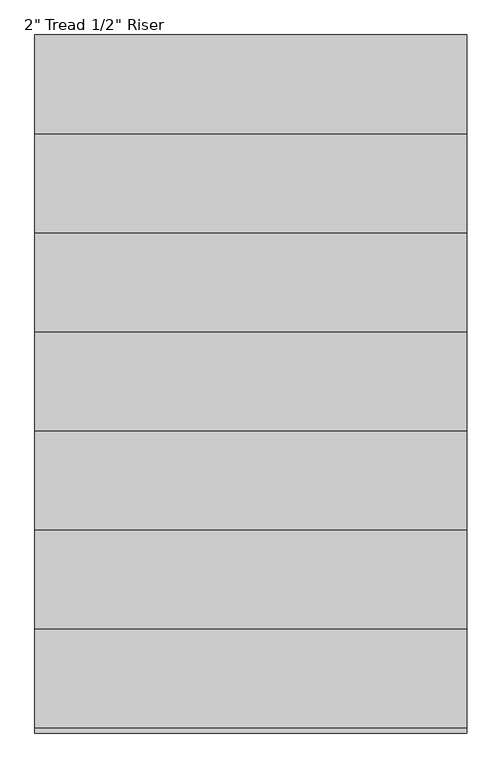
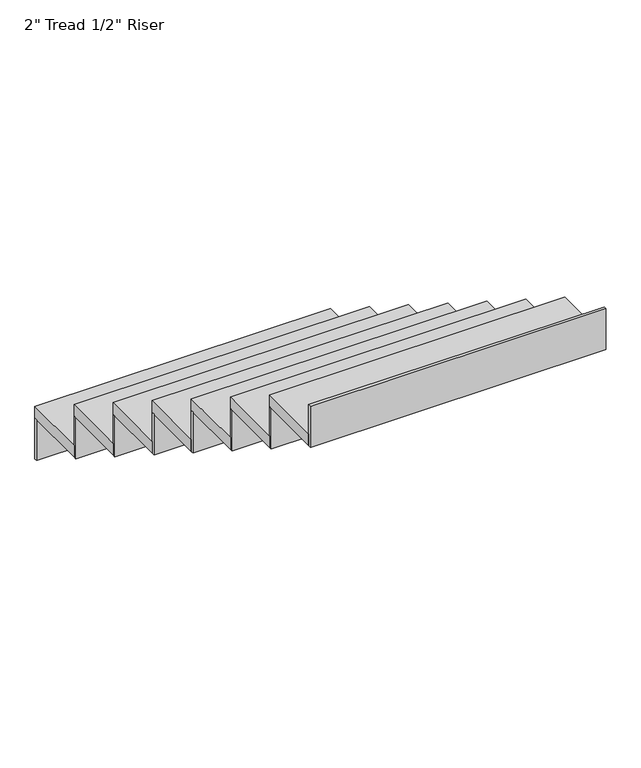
"""IFC4 building model written with IfcOpenShell, lengths in millimetres: stair flight geometry."""

from ifc_helpers import new_model, si_unit, frame, origin, place, context, project, spatial, polyline, outline, extrude, source, transform, mapped, element, save


def stair_flight_ad402a87(model_context):
    return source(origin(), model_context, "Body", "SweptSolid", [
        extrude(outline(polyline([(26064.2237309, 9925.1006), (26064.2237309, 9937.8006), (27283.4237309, 9937.8006), (27283.4237309, 9925.1006), (26064.2237309, 9925.1006)])), frame((0.0, 0.0, 1371.6), z_axis=(0.0, 0.0, 1.0), x_axis=(1.0, 0.0, 0.0)), (0.0, 0.0, 1.0), 177.8),
        extrude(outline(polyline([(27283.4237309, 9658.4006), (26064.2237309, 9658.4006), (26064.2237309, 9937.8006), (27283.4237309, 9937.8006), (27283.4237309, 9658.4006)])), frame((0.0, 0.0, 1549.4), z_axis=(0.0, 0.0, 1.0), x_axis=(1.0, 0.0, 0.0)), (0.0, 0.0, 1.0), 50.8),
        extrude(outline(polyline([(26064.2237309, 9645.7006), (26064.2237309, 9658.4006), (27283.4237309, 9658.4006), (27283.4237309, 9645.7006), (26064.2237309, 9645.7006)])), frame((0.0, 0.0, 1549.4), z_axis=(0.0, 0.0, 1.0), x_axis=(1.0, 0.0, 0.0)), (0.0, 0.0, 1.0), 177.8),
        extrude(outline(polyline([(27283.4237309, 9379.0006), (26064.2237309, 9379.0006), (26064.2237309, 9658.4006), (27283.4237309, 9658.4006), (27283.4237309, 9379.0006)])), frame((0.0, 0.0, 1727.2), z_axis=(0.0, 0.0, 1.0), x_axis=(1.0, 0.0, 0.0)), (0.0, 0.0, 1.0), 50.8),
        extrude(outline(polyline([(26064.2237309, 9366.3006), (26064.2237309, 9379.0006), (27283.4237309, 9379.0006), (27283.4237309, 9366.3006), (26064.2237309, 9366.3006)])), frame((0.0, 0.0, 1727.2), z_axis=(0.0, 0.0, 1.0), x_axis=(1.0, 0.0, 0.0)), (0.0, 0.0, 1.0), 177.8),
        extrude(outline(polyline([(27283.4237309, 9099.6006), (26064.2237309, 9099.6006), (26064.2237309, 9379.0006), (27283.4237309, 9379.0006), (27283.4237309, 9099.6006)])), frame((0.0, 0.0, 1905.0), z_axis=(0.0, 0.0, 1.0), x_axis=(1.0, 0.0, 0.0)), (0.0, 0.0, 1.0), 50.8),
        extrude(outline(polyline([(26064.2237309, 9086.9006), (26064.2237309, 9099.6006), (27283.4237309, 9099.6006), (27283.4237309, 9086.9006), (26064.2237309, 9086.9006)])), frame((0.0, 0.0, 1905.0), z_axis=(0.0, 0.0, 1.0), x_axis=(1.0, 0.0, 0.0)), (0.0, 0.0, 1.0), 177.8),
        extrude(outline(polyline([(27283.4237309, 8820.2006), (26064.2237309, 8820.2006), (26064.2237309, 9099.6006), (27283.4237309, 9099.6006), (27283.4237309, 8820.2006)])), frame((0.0, 0.0, 2082.8), z_axis=(0.0, 0.0, 1.0), x_axis=(1.0, 0.0, 0.0)), (0.0, 0.0, 1.0), 50.8),
        extrude(outline(polyline([(26064.2237309, 8807.5006), (26064.2237309, 8820.2006), (27283.4237309, 8820.2006), (27283.4237309, 8807.5006), (26064.2237309, 8807.5006)])), frame((0.0, 0.0, 2082.8), z_axis=(0.0, 0.0, 1.0), x_axis=(1.0, 0.0, 0.0)), (0.0, 0.0, 1.0), 177.8),
        extrude(outline(polyline([(27283.4237309, 8540.8006), (26064.2237309, 8540.8006), (26064.2237309, 8820.2006), (27283.4237309, 8820.2006), (27283.4237309, 8540.8006)])), frame((0.0, 0.0, 2260.6), z_axis=(0.0, 0.0, 1.0), x_axis=(1.0, 0.0, 0.0)), (0.0, 0.0, 1.0), 50.8),
        extrude(outline(polyline([(26064.2237309, 8528.1006), (26064.2237309, 8540.8006), (27283.4237309, 8540.8006), (27283.4237309, 8528.1006), (26064.2237309, 8528.1006)])), frame((0.0, 0.0, 2260.6), z_axis=(0.0, 0.0, 1.0), x_axis=(1.0, 0.0, 0.0)), (0.0, 0.0, 1.0), 177.8),
        extrude(outline(polyline([(27283.4237309, 8261.4006), (26064.2237309, 8261.4006), (26064.2237309, 8540.8006), (27283.4237309, 8540.8006), (27283.4237309, 8261.4006)])), frame((0.0, 0.0, 2438.4), z_axis=(0.0, 0.0, 1.0), x_axis=(1.0, 0.0, 0.0)), (0.0, 0.0, 1.0), 50.8),
        extrude(outline(polyline([(26064.2237309, 8248.7006), (26064.2237309, 8261.4006), (27283.4237309, 8261.4006), (27283.4237309, 8248.7006), (26064.2237309, 8248.7006)])), frame((0.0, 0.0, 2438.4), z_axis=(0.0, 0.0, 1.0), x_axis=(1.0, 0.0, 0.0)), (0.0, 0.0, 1.0), 177.8),
        extrude(outline(polyline([(26064.2237309, 7969.3006), (26064.2237309, 7982.0006), (27283.4237309, 7982.0006), (27283.4237309, 7969.3006), (26064.2237309, 7969.3006)])), frame((0.0, 0.0, 2616.2), z_axis=(0.0, 0.0, 1.0), x_axis=(1.0, 0.0, 0.0)), (0.0, 0.0, 1.0), 177.8),
        extrude(outline(polyline([(27283.4237309, 7982.0006), (26064.2237309, 7982.0006), (26064.2237309, 8261.4006), (27283.4237309, 8261.4006), (27283.4237309, 7982.0006)])), frame((0.0, 0.0, 2616.2), z_axis=(0.0, 0.0, 1.0), x_axis=(1.0, 0.0, 0.0)), (0.0, 0.0, 1.0), 50.8),
    ])


if __name__ == "__main__":
    model = new_model("IFC4")
    model_context = context("Model", 3, world=origin())
    ifc_project = project(units=[si_unit("LENGTHUNIT", "METRE", prefix="MILLI")], contexts=[model_context])
    site = spatial("IfcSite", under=ifc_project)
    building = spatial("IfcBuilding", under=site)
    placement = place(None, origin())
    stair_flight_shape = stair_flight_ad402a87(model_context)
    element("IfcStairFlight", 1, ObjectType="2\" Tread 1/2\" Riser", at=placement, inside=building, context=model_context, shape_type="MappedRepresentation", body=[
        mapped(stair_flight_shape, transform((0.0, 0.0, 0.0), x_axis=(1.0, 0.0, 0.0), y_axis=(0.0, 1.0, 0.0), z_axis=(0.0, 0.0, 1.0))),
    ])
    save(model, "model.ifc")
